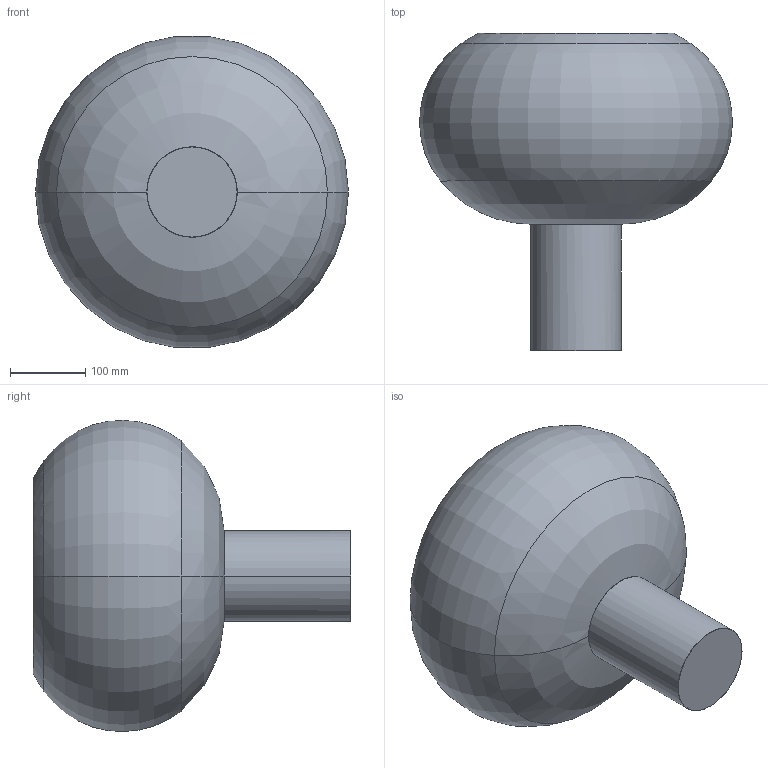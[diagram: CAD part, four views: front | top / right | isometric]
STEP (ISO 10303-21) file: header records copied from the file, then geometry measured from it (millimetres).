
FILE_DESCRIPTION (( 'STEP AP214' ), '1' );
FILE_NAME ('278_2_T_PL_3D.STEP', '2021-05-10T07:41:08', ( '' ), ( '' ), 'SwSTEP 2.0', 'SolidWorks 2021', '' );
FILE_SCHEMA (( 'AUTOMOTIVE_DESIGN' ));
Length unit declared in the file: millimetre
Products named in the file (1): 278_2_T_PL_3D
Bounding box: 415.02 x 421 x 412.75 mm (x, y, z)
Volume: 3468601.6 mm3; surface area: 862333.8 mm2
Topology: 2 solids, 2 shells, 62 faces, 144 edges, 84 vertices
Faces by surface type: cylinder 24, torus 18, plane 8, cone 6, bspline 6
Entity records: 2980 total; most frequent: CARTESIAN_POINT 859, DIRECTION 319, ORIENTED_EDGE 276, AXIS2_PLACEMENT_3D 140, EDGE_CURVE 138, VERTEX_POINT 84, CIRCLE 83, EDGE_LOOP 68
